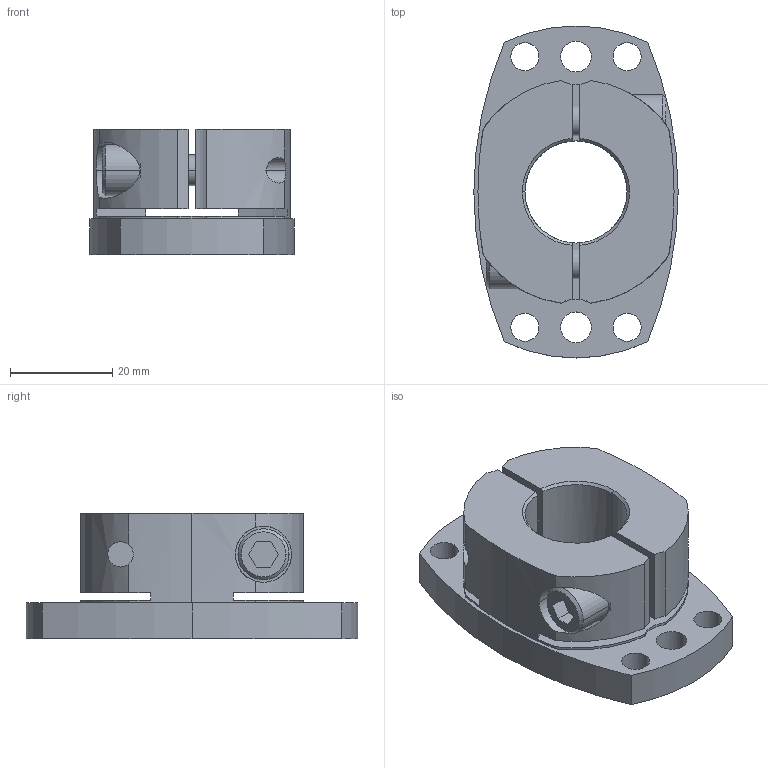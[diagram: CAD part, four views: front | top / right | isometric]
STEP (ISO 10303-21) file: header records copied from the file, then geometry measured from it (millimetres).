
FILE_DESCRIPTION((''),'2;1');
FILE_NAME('SHDB-65B-20.stp','2026-01-28T07:57:04',(''),(''),'AutoCAD STEP 2000i','AutoCAD 2000i',', , ');
FILE_SCHEMA(('CONFIG_CONTROL_DESIGN'));
Length unit declared in the file: millimetre
Products named in the file (2): SHDB-65B-16; 忣兜1
Assembly tree (1 placements, depth 2):
  SHDB-65B-16
    忣兜1
Bounding box: 40 x 65 x 24.5 mm (x, y, z)
Volume: 29655.7 mm3; surface area: 12471.7 mm2
Topology: 1 solids, 1 shells, 102 faces, 280 edges, 184 vertices
Faces by surface type: cylinder 58, plane 34, cone 10
Entity records: 3699 total; most frequent: CARTESIAN_POINT 872, DIRECTION 602, ORIENTED_EDGE 560, EDGE_CURVE 280, AXIS2_PLACEMENT_3D 238, VERTEX_POINT 184, CIRCLE 134, VECTOR 126
